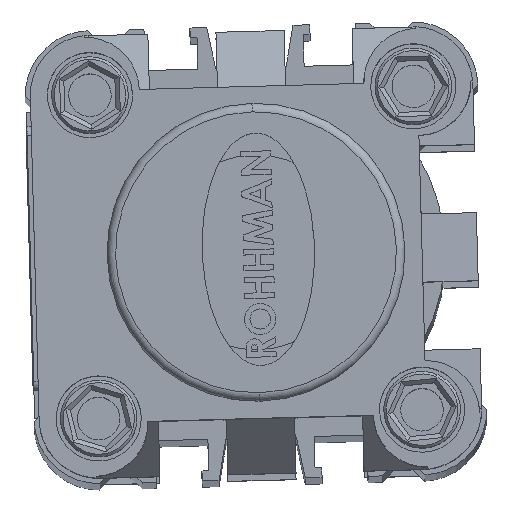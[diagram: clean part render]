
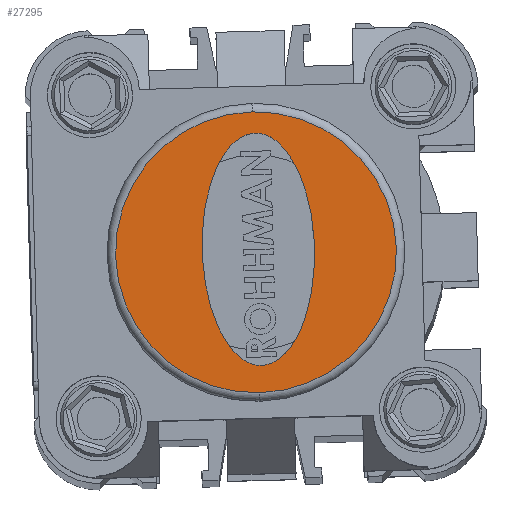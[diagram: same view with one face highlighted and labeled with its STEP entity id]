
A CAD part, top view. The second image highlights one B-rep face of the part: STEP entity #27295.
In plain terms, the highlighted planar face has unit normal (0, 0, 1) as drawn and (0, 0, -1) by its records, which use the part's own axes.
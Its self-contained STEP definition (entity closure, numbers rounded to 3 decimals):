
#1251 = VERTEX_POINT ( 'NONE', #24857 ) ;
#1690 = CARTESIAN_POINT ( 'NONE',  ( 12.017, 25.719, -4. ) ) ;
#2531 = CARTESIAN_POINT ( 'NONE',  ( 12.017, 25.719, -4. ) ) ;
#3850 = CARTESIAN_POINT ( 'NONE',  ( 39.297, 25.719, -4. ) ) ;
#4852 =( BOUNDED_CURVE ( )  B_SPLINE_CURVE ( 3, ( #3850, #11644, #19598, #13973 ),
 .UNSPECIFIED., .F., .F. ) 
 B_SPLINE_CURVE_WITH_KNOTS ( ( 4, 4 ),
 ( 0., 3.142 ),
 .UNSPECIFIED. ) 
 CURVE ( )  GEOMETRIC_REPRESENTATION_ITEM ( )  RATIONAL_B_SPLINE_CURVE ( ( 1., 0.333, 0.333, 1. ) ) 
 REPRESENTATION_ITEM ( '' )  );
#6204 = CIRCLE ( 'NONE', #6722, 16.5 ) ;
#6722 = AXIS2_PLACEMENT_3D ( 'NONE', #9002, #29230, #9169 ) ;
#7069 = CARTESIAN_POINT ( 'NONE',  ( 26., 26., -4. ) ) ;
#8150 = ORIENTED_EDGE ( 'NONE', *, *, #11008, .F. ) ;
#9002 = CARTESIAN_POINT ( 'NONE',  ( 26., 26., -4. ) ) ;
#9169 = DIRECTION ( 'NONE',  ( -1., 0., 0. ) ) ;
#9651 = CARTESIAN_POINT ( 'NONE',  ( 9.5, 26., -4. ) ) ;
#9995 = AXIS2_PLACEMENT_3D ( 'NONE', #7069, #14857, #20339 ) ;
#11008 = EDGE_CURVE ( 'NONE', #14038, #28479, #4852, .T. ) ;
#11644 = CARTESIAN_POINT ( 'NONE',  ( 39.297, 12.525, -4. ) ) ;
#11820 = CARTESIAN_POINT ( 'NONE',  ( 12.017, 38.913, -4. ) ) ;
#12200 = ORIENTED_EDGE ( 'NONE', *, *, #24932, .T. ) ;
#12208 = CIRCLE ( 'NONE', #21762, 16.5 ) ;
#13973 = CARTESIAN_POINT ( 'NONE',  ( 12.017, 25.719, -4. ) ) ;
#14038 = VERTEX_POINT ( 'NONE', #17567 ) ;
#14857 = DIRECTION ( 'NONE',  ( 0., 0., -1. ) ) ;
#15026 = FACE_BOUND ( 'NONE', #17209, .T. ) ;
#16459 = DIRECTION ( 'NONE',  ( -1., 0., 0. ) ) ;
#17209 = EDGE_LOOP ( 'NONE', ( #8150, #29324 ) ) ;
#17567 = CARTESIAN_POINT ( 'NONE',  ( 39.297, 25.719, -4. ) ) ;
#19598 = CARTESIAN_POINT ( 'NONE',  ( 12.017, 12.525, -4. ) ) ;
#20339 = DIRECTION ( 'NONE',  ( -1., 0., 0. ) ) ;
#20455 = CARTESIAN_POINT ( 'NONE',  ( 26., 26., -4. ) ) ;
#20769 =( BOUNDED_CURVE ( )  B_SPLINE_CURVE ( 3, ( #1690, #11820, #21949, #24778 ),
 .UNSPECIFIED., .F., .F. ) 
 B_SPLINE_CURVE_WITH_KNOTS ( ( 4, 4 ),
 ( 3.142, 6.283 ),
 .UNSPECIFIED. ) 
 CURVE ( )  GEOMETRIC_REPRESENTATION_ITEM ( )  RATIONAL_B_SPLINE_CURVE ( ( 1., 0.333, 0.333, 1. ) ) 
 REPRESENTATION_ITEM ( '' )  );
#21475 = ORIENTED_EDGE ( 'NONE', *, *, #22364, .T. ) ;
#21762 = AXIS2_PLACEMENT_3D ( 'NONE', #20455, #23477, #16459 ) ;
#21949 = CARTESIAN_POINT ( 'NONE',  ( 39.297, 38.913, -4. ) ) ;
#22364 = EDGE_CURVE ( 'NONE', #23161, #1251, #6204, .T. ) ;
#22852 = FACE_OUTER_BOUND ( 'NONE', #31473, .T. ) ;
#23161 = VERTEX_POINT ( 'NONE', #9651 ) ;
#23477 = DIRECTION ( 'NONE',  ( 0., 0., -1. ) ) ;
#24778 = CARTESIAN_POINT ( 'NONE',  ( 39.297, 25.719, -4. ) ) ;
#24857 = CARTESIAN_POINT ( 'NONE',  ( 42.5, 26., -4. ) ) ;
#24932 = EDGE_CURVE ( 'NONE', #1251, #23161, #12208, .T. ) ;
#26786 = EDGE_CURVE ( 'NONE', #28479, #14038, #20769, .T. ) ;
#27295 = ADVANCED_FACE ( 'NONE', ( #15026, #22852 ), #29806, .T. ) ;
#28479 = VERTEX_POINT ( 'NONE', #2531 ) ;
#29230 = DIRECTION ( 'NONE',  ( 0., 0., -1. ) ) ;
#29324 = ORIENTED_EDGE ( 'NONE', *, *, #26786, .F. ) ;
#29806 = PLANE ( 'NONE',  #9995 ) ;
#31473 = EDGE_LOOP ( 'NONE', ( #21475, #12200 ) ) ;
